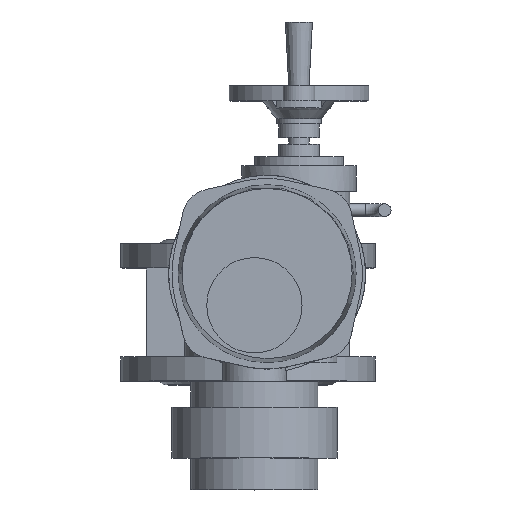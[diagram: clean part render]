
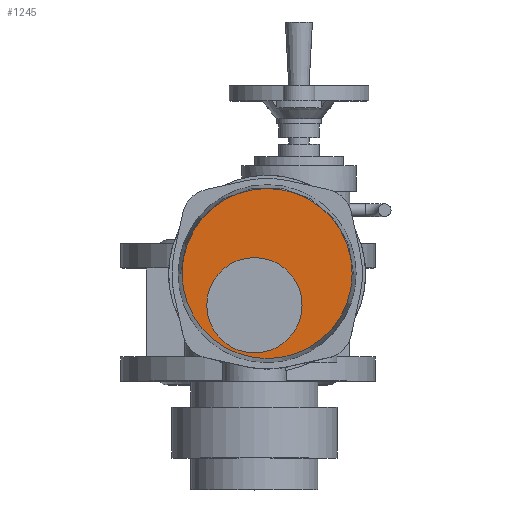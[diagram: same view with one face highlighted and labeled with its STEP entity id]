
A CAD part, top view. The second image highlights one B-rep face of the part: STEP entity #1245.
In plain terms, the highlighted planar face has unit normal (0, 0, 1).
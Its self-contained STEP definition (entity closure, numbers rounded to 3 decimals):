
#1245=ADVANCED_FACE('',(#2808,#2810),#2812,.T.);
#2808=FACE_BOUND('',#2809,.T.);
#2809=EDGE_LOOP('',(#3847));
#2810=FACE_BOUND('',#2811,.T.);
#2811=EDGE_LOOP('',(#3848));
#2812=PLANE('',#2813);
#2813=AXIS2_PLACEMENT_3D('',#2814,#2815,#2816);
#2814=CARTESIAN_POINT('',(15.,30.,381.));
#2815=DIRECTION('',(0.,0.,1.));
#2816=DIRECTION('',(-1.,0.,0.));
#3847=ORIENTED_EDGE('',*,*,#4330,.T.);
#3848=ORIENTED_EDGE('',*,*,#4387,.F.);
#4330=EDGE_CURVE('',#4921,#4921,#4922,.T.);
#4387=EDGE_CURVE('',#5015,#5015,#5016,.T.);
#4921=VERTEX_POINT('',#7058);
#4922=CIRCLE('',#7059,66.908);
#5015=VERTEX_POINT('',#7493);
#5016=CIRCLE('',#7494,37.5);
#7058=CARTESIAN_POINT('',(-51.908,30.,381.));
#7059=AXIS2_PLACEMENT_3D('',#7060,#7061,#7062);
#7060=CARTESIAN_POINT('',(15.,30.,381.));
#7061=DIRECTION('',(0.,0.,1.));
#7062=DIRECTION('',(-1.,0.,0.));
#7493=CARTESIAN_POINT('',(-32.5,5.,381.));
#7494=AXIS2_PLACEMENT_3D('',#7495,#7496,#7497);
#7495=CARTESIAN_POINT('',(5.,5.,381.));
#7496=DIRECTION('',(0.,0.,1.));
#7497=DIRECTION('',(-1.,0.,0.));
